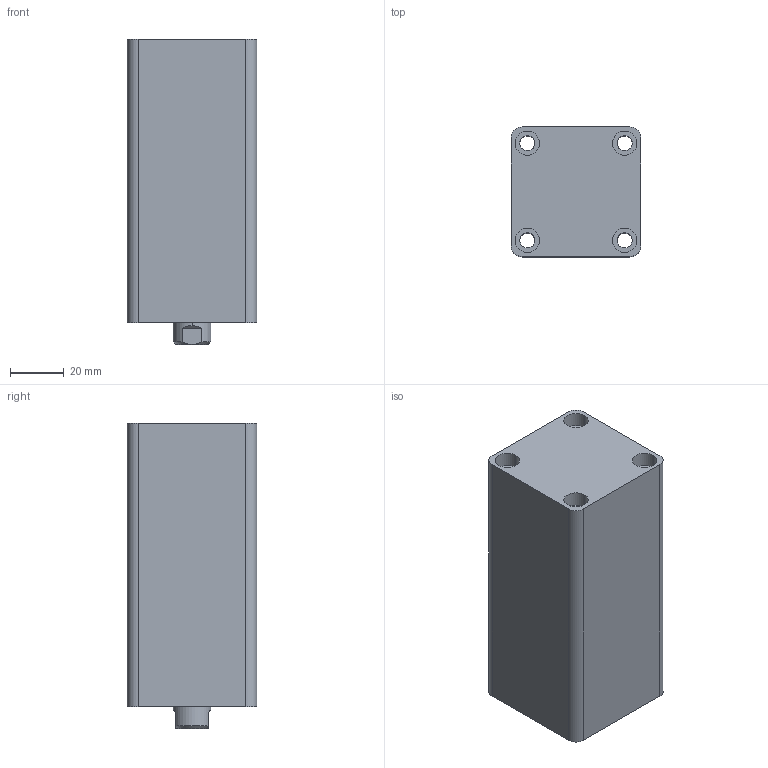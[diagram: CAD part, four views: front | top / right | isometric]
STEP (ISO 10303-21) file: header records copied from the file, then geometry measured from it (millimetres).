
FILE_DESCRIPTION (( 'STEP AP203' ), '1' );
FILE_NAME ('HTB-SD25-60N.STEP', '2019-10-07T06:14:39', ( '微软用户' ), ( '微软中国' ), 'SwSTEP 2.0', 'SolidWorks 2012', '' );
FILE_SCHEMA (( 'CONFIG_CONTROL_DESIGN' ));
Length unit declared in the file: millimetre
Products named in the file (3): HTB-SD25-60掛极; HTB-SD25-60N; HTB-SD25-60N活塞杆
Assembly tree (2 placements, depth 2):
  HTB-SD25-60N
    HTB-SD25-60掛极
    HTB-SD25-60N活塞杆
Bounding box: 48 x 48 x 113 mm (x, y, z)
Volume: 207452.7 mm3; surface area: 46130.4 mm2
Topology: 2 solids, 2 shells, 83 faces, 182 edges, 117 vertices
Faces by surface type: cylinder 42, plane 27, cone 8, torus 6
Entity records: 2653 total; most frequent: DIRECTION 454, CARTESIAN_POINT 429, ORIENTED_EDGE 360, AXIS2_PLACEMENT_3D 194, EDGE_CURVE 180, VERTEX_POINT 117, EDGE_LOOP 107, CIRCLE 106
